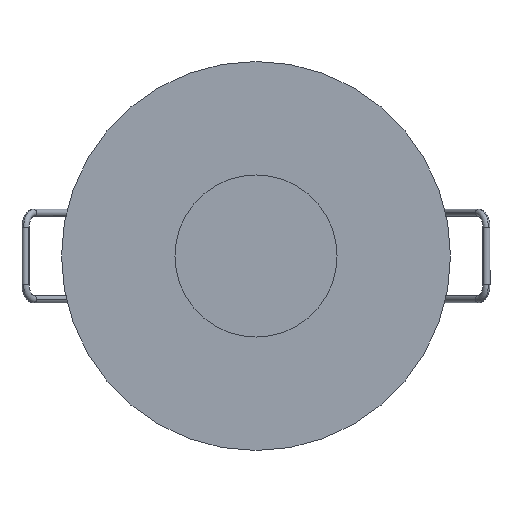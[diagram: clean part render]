
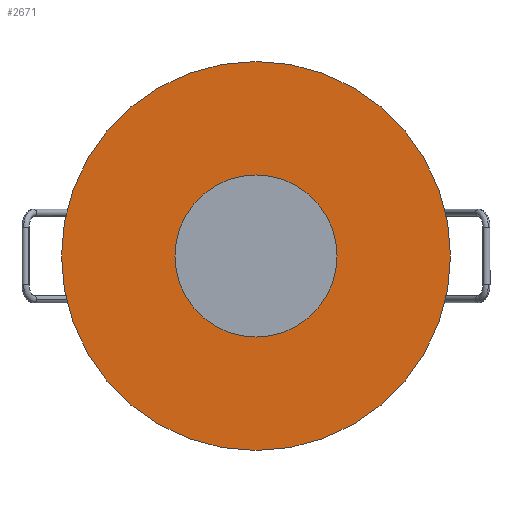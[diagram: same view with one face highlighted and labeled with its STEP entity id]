
A CAD part, front view. The second image highlights one B-rep face of the part: STEP entity #2671.
In plain terms, the highlighted planar face has unit normal (0, -1, 0) as drawn and (-1, 0, 0) by its records, which use the part's own axes.
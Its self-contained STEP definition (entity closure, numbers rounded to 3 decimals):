
#83=FACE_BOUND('',#545,.T.);
#121=PLANE('',#2923);
#375=FACE_OUTER_BOUND('',#544,.T.);
#544=EDGE_LOOP('',(#2138,#2139));
#545=EDGE_LOOP('',(#2140,#2141));
#964=CIRCLE('',#2902,27.);
#970=CIRCLE('',#2911,11.25);
#975=CIRCLE('',#2924,27.);
#976=CIRCLE('',#2925,11.25);
#1162=VERTEX_POINT('',#6780);
#1163=VERTEX_POINT('',#6782);
#1174=VERTEX_POINT('',#6807);
#1175=VERTEX_POINT('',#6809);
#1495=EDGE_CURVE('',#1163,#1162,#964,.T.);
#1507=EDGE_CURVE('',#1175,#1174,#970,.T.);
#1531=EDGE_CURVE('',#1162,#1163,#975,.T.);
#1532=EDGE_CURVE('',#1174,#1175,#976,.T.);
#2138=ORIENTED_EDGE('',*,*,#1495,.T.);
#2139=ORIENTED_EDGE('',*,*,#1531,.T.);
#2140=ORIENTED_EDGE('',*,*,#1507,.T.);
#2141=ORIENTED_EDGE('',*,*,#1532,.T.);
#2671=ADVANCED_FACE('',(#375,#83),#121,.T.);
#2902=AXIS2_PLACEMENT_3D('',#6783,#3436,#3437);
#2911=AXIS2_PLACEMENT_3D('',#6810,#3460,#3461);
#2923=AXIS2_PLACEMENT_3D('',#6957,#3492,#3493);
#2924=AXIS2_PLACEMENT_3D('',#6958,#3494,#3495);
#2925=AXIS2_PLACEMENT_3D('',#6959,#3496,#3497);
#3436=DIRECTION('center_axis',(-1.,0.,0.));
#3437=DIRECTION('ref_axis',(0.,0.,1.));
#3460=DIRECTION('center_axis',(1.,0.,0.));
#3461=DIRECTION('ref_axis',(0.,0.,-1.));
#3492=DIRECTION('center_axis',(-1.,0.,0.));
#3493=DIRECTION('ref_axis',(0.,0.,1.));
#3494=DIRECTION('center_axis',(-1.,0.,0.));
#3495=DIRECTION('ref_axis',(0.,0.,1.));
#3496=DIRECTION('center_axis',(1.,0.,0.));
#3497=DIRECTION('ref_axis',(0.,0.,-1.));
#6780=CARTESIAN_POINT('',(0.,0.,-27.));
#6782=CARTESIAN_POINT('',(0.,0.,27.));
#6783=CARTESIAN_POINT('Origin',(0.,0.,0.));
#6807=CARTESIAN_POINT('',(0.,0.,-11.25));
#6809=CARTESIAN_POINT('',(0.,0.,11.25));
#6810=CARTESIAN_POINT('Origin',(0.,0.,0.));
#6957=CARTESIAN_POINT('Origin',(0.,0.,0.));
#6958=CARTESIAN_POINT('Origin',(0.,0.,0.));
#6959=CARTESIAN_POINT('Origin',(0.,0.,0.));
